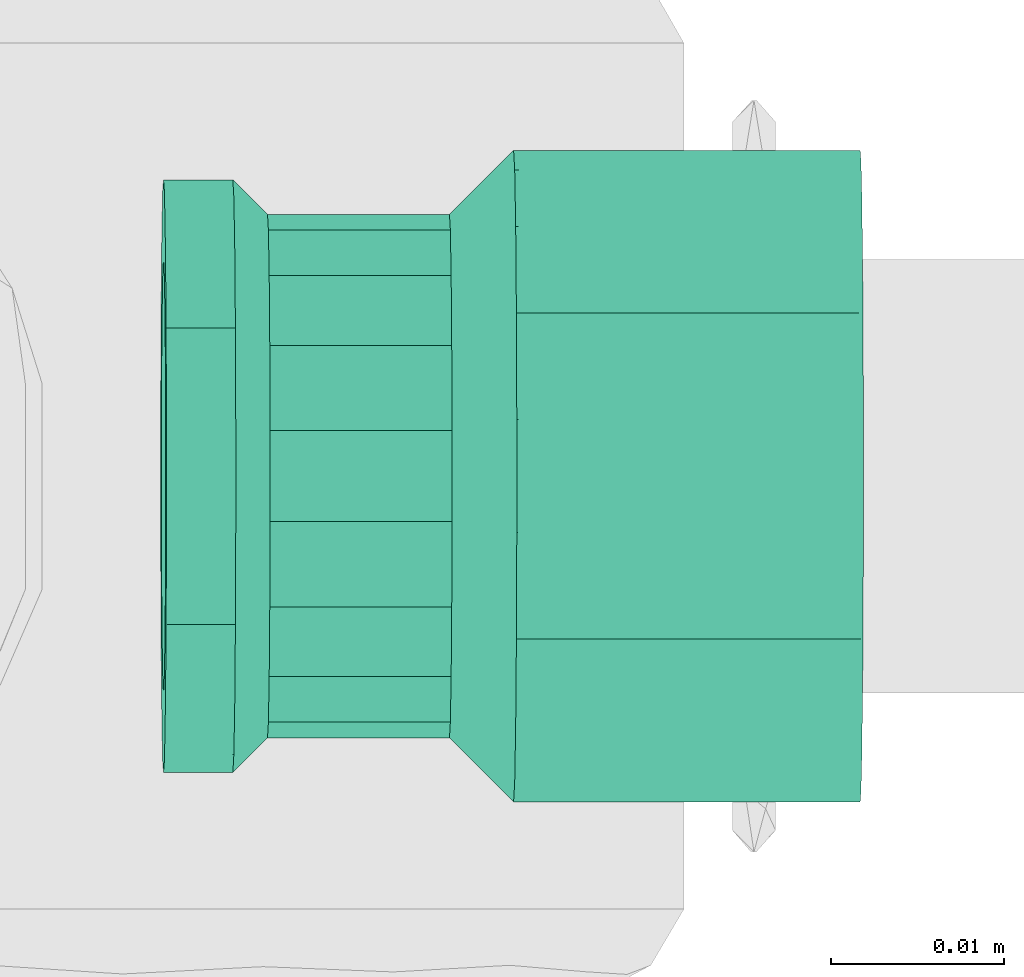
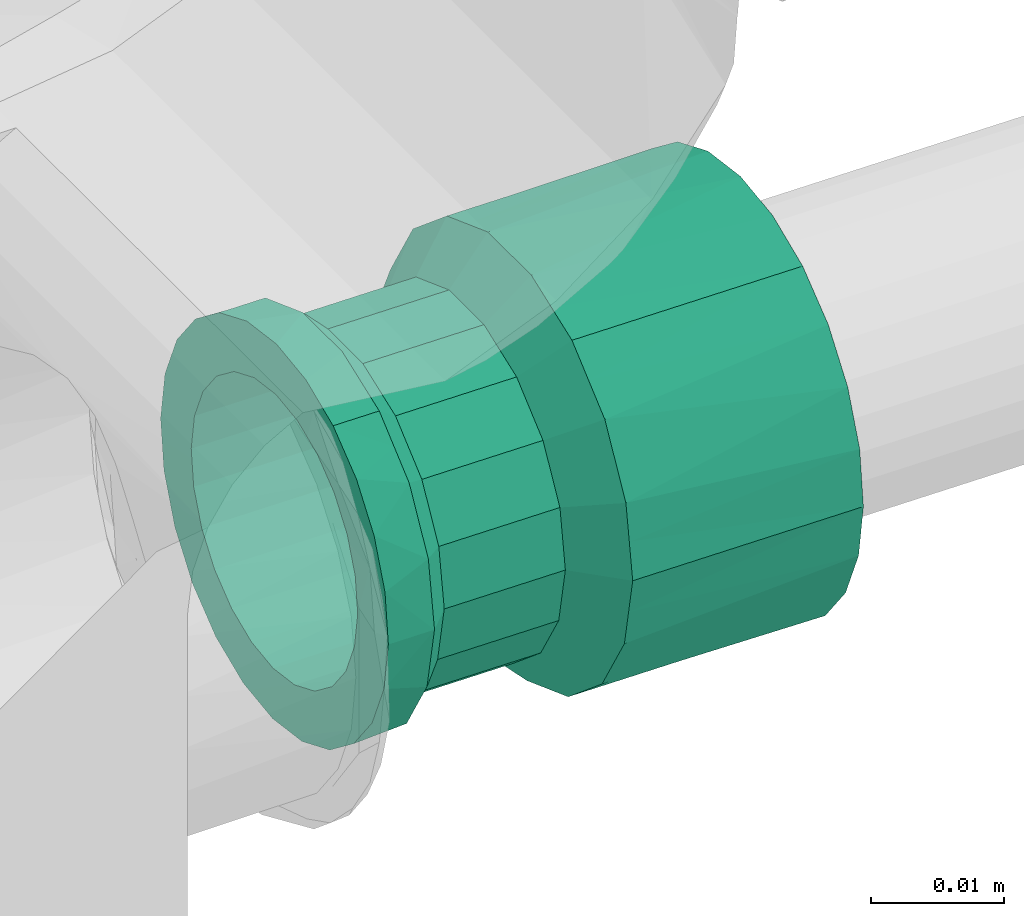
# One storey, part 315 of 589: 2 flow fittings.
"""IFC2X3 building model written with IfcOpenShell, lengths in millimetres."""

from ifc_helpers import new_model, entity, si_unit, converted_unit, derived_unit, direction, frame, origin, place, context, subcontext, project, spatial, faceted_brep, source, transform, mapped, material, type_object, type_shapes, element, save


model = new_model("IFC2X3")

# Units and contexts
model_context = context("Model", 3, precision=0.01, world=origin(), true_north=direction((6.123031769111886e-17, 1.0)))
body_context = subcontext(model_context, "Body", "Model", "MODEL_VIEW")
ifc_project = project(units=[si_unit("LENGTHUNIT", "METRE", prefix="MILLI"), si_unit("AREAUNIT", "SQUARE_METRE"), si_unit("VOLUMEUNIT", "CUBIC_METRE"), converted_unit("PLANEANGLEUNIT", "DEGREE", entity("IfcRatioMeasure", 0.017453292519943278), si_unit("PLANEANGLEUNIT", "RADIAN"), dimensions=[0, 0, 0, 0, 0, 0, 0]), si_unit("MASSUNIT", "GRAM", prefix="KILO"), derived_unit("MASSDENSITYUNIT", [(si_unit("MASSUNIT", "GRAM", prefix="KILO"), 1), (si_unit("LENGTHUNIT", "METRE"), -3)]), derived_unit("IONCONCENTRATIONUNIT", [(si_unit("MASSUNIT", "GRAM", prefix="KILO"), 1), (si_unit("LENGTHUNIT", "METRE"), -3)]), derived_unit("MOMENTOFINERTIAUNIT", [(si_unit("LENGTHUNIT", "METRE"), 4)]), si_unit("TIMEUNIT", "SECOND"), si_unit("FREQUENCYUNIT", "HERTZ"), si_unit("THERMODYNAMICTEMPERATUREUNIT", "DEGREE_CELSIUS"), derived_unit("THERMALTRANSMITTANCEUNIT", [(si_unit("MASSUNIT", "GRAM", prefix="KILO"), 1), (si_unit("THERMODYNAMICTEMPERATUREUNIT", "KELVIN"), -1), (si_unit("TIMEUNIT", "SECOND"), -3)]), derived_unit("THERMALCONDUCTANCEUNIT", [(si_unit("MASSUNIT", "GRAM", prefix="KILO"), 1), (si_unit("THERMODYNAMICTEMPERATUREUNIT", "KELVIN"), -1), (si_unit("TIMEUNIT", "SECOND"), -3), (si_unit("LENGTHUNIT", "METRE"), 1)]), derived_unit("VOLUMETRICFLOWRATEUNIT", [(si_unit("LENGTHUNIT", "METRE"), 3), (si_unit("TIMEUNIT", "SECOND"), -1)]), derived_unit("MASSFLOWRATEUNIT", [(si_unit("MASSUNIT", "GRAM", prefix="KILO"), 1), (si_unit("TIMEUNIT", "SECOND"), -1)]), derived_unit("ROTATIONALFREQUENCYUNIT", [(si_unit("TIMEUNIT", "SECOND"), -1)]), si_unit("ELECTRICCURRENTUNIT", "AMPERE"), si_unit("ELECTRICVOLTAGEUNIT", "VOLT"), si_unit("POWERUNIT", "WATT"), si_unit("FORCEUNIT", "NEWTON", prefix="KILO"), si_unit("ILLUMINANCEUNIT", "LUX"), si_unit("LUMINOUSFLUXUNIT", "LUMEN"), si_unit("LUMINOUSINTENSITYUNIT", "CANDELA"), derived_unit("USERDEFINED", [(si_unit("MASSUNIT", "GRAM", prefix="KILO"), -1), (si_unit("LENGTHUNIT", "METRE"), -2), (si_unit("TIMEUNIT", "SECOND"), 3), (si_unit("LUMINOUSFLUXUNIT", "LUMEN"), 1)]), derived_unit("USERDEFINED", [(si_unit("MASSUNIT", "GRAM", prefix="KILO"), 1), (si_unit("TIMEUNIT", "SECOND"), -3), (si_unit("LENGTHUNIT", "METRE"), 3), (si_unit("ELECTRICCURRENTUNIT", "AMPERE"), -2)]), derived_unit("SOUNDPOWERUNIT", [(si_unit("MASSUNIT", "GRAM", prefix="KILO"), 1), (si_unit("TIMEUNIT", "SECOND"), -3), (si_unit("LENGTHUNIT", "METRE"), 2)]), derived_unit("SOUNDPRESSUREUNIT", [(si_unit("MASSUNIT", "GRAM", prefix="KILO"), 1), (si_unit("LENGTHUNIT", "METRE"), -1), (si_unit("TIMEUNIT", "SECOND"), -2)]), derived_unit("LINEARVELOCITYUNIT", [(si_unit("LENGTHUNIT", "METRE"), 1), (si_unit("TIMEUNIT", "SECOND"), -1)]), si_unit("PRESSUREUNIT", "PASCAL"), derived_unit("USERDEFINED", [(si_unit("MASSUNIT", "GRAM", prefix="KILO"), 1), (si_unit("LENGTHUNIT", "METRE"), -2), (si_unit("TIMEUNIT", "SECOND"), -2)]), derived_unit("LINEARFORCEUNIT", [(si_unit("MASSUNIT", "GRAM", prefix="KILO"), 1), (si_unit("TIMEUNIT", "SECOND"), -2)]), derived_unit("PLANARFORCEUNIT", [(si_unit("MASSUNIT", "GRAM", prefix="KILO"), 1), (si_unit("LENGTHUNIT", "METRE"), -1), (si_unit("TIMEUNIT", "SECOND"), -2)]), derived_unit("SPECIFICHEATCAPACITYUNIT", [(si_unit("THERMODYNAMICTEMPERATUREUNIT", "KELVIN"), -1), (si_unit("LENGTHUNIT", "METRE"), 2), (si_unit("TIMEUNIT", "SECOND"), -2)]), derived_unit("HEATINGVALUEUNIT", [(si_unit("LENGTHUNIT", "METRE"), 2), (si_unit("TIMEUNIT", "SECOND"), -2)]), derived_unit("VAPORPERMEABILITYUNIT", [(si_unit("LENGTHUNIT", "METRE"), -1), (si_unit("TIMEUNIT", "SECOND"), 1)]), derived_unit("DYNAMICVISCOSITYUNIT", [(si_unit("MASSUNIT", "GRAM", prefix="KILO"), 1), (si_unit("TIMEUNIT", "SECOND"), -1), (si_unit("LENGTHUNIT", "METRE"), -1)]), derived_unit("THERMALEXPANSIONCOEFFICIENTUNIT", [(si_unit("THERMODYNAMICTEMPERATUREUNIT", "KELVIN"), -1)]), derived_unit("MODULUSOFELASTICITYUNIT", [(si_unit("MASSUNIT", "GRAM", prefix="KILO"), 1), (si_unit("LENGTHUNIT", "METRE"), -1), (si_unit("TIMEUNIT", "SECOND"), -2)]), derived_unit("ISOTHERMALMOISTURECAPACITYUNIT", [(si_unit("LENGTHUNIT", "METRE"), 3), (si_unit("MASSUNIT", "GRAM", prefix="KILO"), -1)]), derived_unit("MOISTUREDIFFUSIVITYUNIT", [(si_unit("TIMEUNIT", "SECOND"), -1), (si_unit("LENGTHUNIT", "METRE"), 2)])], contexts=[model_context])

# Site, building, storey
site_placement = place(None, origin())
site = spatial("IfcSite", under=ifc_project, at=site_placement, Name="Default", CompositionType="ELEMENT")
building_placement = place(site_placement, origin())
building = spatial("IfcBuilding", under=site, at=building_placement, CompositionType="ELEMENT")
storey_placement = place(building_placement, frame((0.0, 0.0, 100.0)))
storey = spatial("IfcBuildingStorey", under=building, at=storey_placement, Name="TÉRREO", CompositionType="ELEMENT", Elevation=100.0)

# Flow fittings
ifc_material = material(Name="PVC Azul")
pipe_fitting_type = type_object("IfcPipeFittingType", Name="Luva Soldavel com Bucha de Latao - Fortlev - AleBim:Standard", PredefinedType="NOTDEFINED", material=ifc_material)
shared_shape = source(origin(), body_context, "Body", "Brep", [
    faceted_brep([(0.0, -9.400000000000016, -16.28127759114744), (0.0, -13.2936074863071, -13.293607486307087), (0.0, -6.249999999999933, -10.825317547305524), (0.0, -3.235238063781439, -12.074072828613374), (0.0, -4.865798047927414, -18.15940553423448), (0.0, -8.838834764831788, -8.838834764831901), (0.0, -16.281277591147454, -9.399999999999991), (0.0, -10.82531754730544, -6.250000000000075), (0.0, -12.074072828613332, -3.2352380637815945), (0.0, -18.159405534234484, -4.865798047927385), (0.0, -12.5, 0.0), (0.0, -18.8, 0.0), (0.0, -12.074072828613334, 3.2352380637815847), (0.0, -18.159405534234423, 4.8657980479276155), (0.0, -10.825317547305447, 6.250000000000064), (0.0, -16.281277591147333, 9.400000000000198), (0.0, -8.838834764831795, 8.838834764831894), (0.0, -13.293607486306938, 13.29360748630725), (0.0, -6.249999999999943, 10.825317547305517), (0.0, -9.399999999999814, 16.281277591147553), (0.0, -3.23523806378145, 12.07407282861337), (0.0, -4.865798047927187, 18.159405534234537), (0.0, 0.0, 12.5), (0.0, 0.0, 18.8), (0.0, 3.2352380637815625, 12.074072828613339), (0.0, 4.865798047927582, 18.159405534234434), (0.0, 6.2500000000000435, 10.825317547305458), (0.0, 9.400000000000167, 16.28127759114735), (0.0, 8.838834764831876, 8.838834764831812), (0.0, 13.29360748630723, 13.293607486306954), (0.0, 10.825317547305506, 6.249999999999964), (0.0, 16.281277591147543, 9.399999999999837), (0.0, 18.159405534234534, 4.865798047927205), (0.0, 12.074072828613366, 3.2352380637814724), (0.0, 18.8, 0.0), (0.0, 12.5, 0.0), (0.0, 18.15940553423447, -4.865798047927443), (0.0, 12.074072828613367, -3.2352380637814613), (0.0, 16.281277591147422, -9.400000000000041), (0.0, 10.825317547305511, -6.249999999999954), (0.0, 13.293607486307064, -13.293607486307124), (0.0, 8.838834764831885, -8.838834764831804), (0.0, 9.399999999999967, -16.281277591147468), (0.0, 6.250000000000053, -10.825317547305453), (0.0, 4.86579804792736, -18.159405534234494), (0.0, 3.2352380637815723, -12.074072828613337), (0.0, 0.0, -18.8), (0.0, 0.0, -12.5), (20.0, 17.66604204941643, 6.4304710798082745), (20.0, 18.233021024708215, 3.2152355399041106), (20.0, 11.899800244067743, 14.183636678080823), (20.0, 14.400961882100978, 12.08520983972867), (20.0, 16.033501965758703, 9.257840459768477), (20.0, 6.330580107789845, 17.39840655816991), (20.0, 3.2625216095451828, 18.514749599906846), (20.0, 18.8, 0.0), (20.0, 9.398638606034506, 16.282063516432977), (20.0, -17.667654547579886, 6.4260394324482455), (20.0, -9.402722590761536, 16.279705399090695), (20.0, -6.334944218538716, 17.39681801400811), (20.0, -3.267165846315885, 18.513930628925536), (20.0, -14.403992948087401, 12.081597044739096), (20.0, -11.903357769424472, 14.180651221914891), (20.0, -18.8, 0.0), (20.0, -16.03582374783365, 9.253818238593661), (20.0, -0.0023221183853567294, 18.514340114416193), (20.0, -17.66765454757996, -6.426039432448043), (20.0, -11.903357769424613, -14.180651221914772), (20.0, -14.403992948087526, -12.081597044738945), (20.0, -16.035823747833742, -9.253818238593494), (20.0, -6.334944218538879, -17.39681801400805), (20.0, -3.2671658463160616, -18.513930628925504), (20.0, 18.233021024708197, -3.2152355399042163), (20.0, -9.402722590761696, -16.2797053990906), (20.0, 6.330580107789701, -17.398406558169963), (20.0, 3.2625216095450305, -18.514749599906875), (20.0, 9.398638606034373, -16.282063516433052), (20.0, 11.899800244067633, -14.183636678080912), (20.0, 17.66604204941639, -6.43047107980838), (20.0, 16.033501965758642, -9.257840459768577), (20.0, 14.400961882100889, -12.085209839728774), (20.0, -0.0023221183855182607, -18.51434011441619), (23.69999999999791, 14.19050976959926, 5.16134018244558), (23.699999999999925, 15.09999999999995, 0.0), (23.699999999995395, 5.088173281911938, 13.97297617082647), (23.699999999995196, 2.6241598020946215, 14.870231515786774), (23.699999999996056, 9.560675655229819, 11.38977837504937), (23.699999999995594, 7.552186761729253, 13.075720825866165), (23.699999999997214, 12.879837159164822, 7.432588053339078), (23.699999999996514, 11.569164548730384, 9.703835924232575), (23.699999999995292, 0.0018651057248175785, 14.870560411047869), (23.69999999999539, -2.620429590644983, 14.870889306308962), (23.699999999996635, -9.557818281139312, 11.392176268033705), (23.699999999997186, -11.566730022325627, 9.706737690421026), (23.699999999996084, -7.548906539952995, 13.077614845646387), (23.699999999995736, -5.084668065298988, 13.974252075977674), (23.699999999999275, -14.644607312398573, 2.582449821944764), (23.699999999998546, -14.189214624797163, 5.164899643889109), (23.700000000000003, -15.099999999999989, 0.0), (23.699999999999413, -14.732236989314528, 2.085517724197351), (23.699999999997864, -12.877972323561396, 7.4358186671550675), (23.699999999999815, -14.644607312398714, -2.582449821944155), (23.699999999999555, -14.18921462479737, -5.164899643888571), (23.699999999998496, -5.084668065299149, -13.97425207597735), (23.699999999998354, -2.620429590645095, -14.87088930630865), (23.69999999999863, -7.548906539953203, -13.077614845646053), (23.69999999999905, -11.566730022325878, -9.706737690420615), (23.69999999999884, -9.557818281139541, -11.392176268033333), (23.6999999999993, 14.190509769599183, -5.1613401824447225), (23.699999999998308, 0.0018651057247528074, -14.870560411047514), (23.699999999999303, -12.877972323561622, -7.435818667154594), (23.699999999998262, 2.6241598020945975, -14.870231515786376), (23.699999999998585, 9.56067565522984, -11.389778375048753), (23.699999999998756, 11.569164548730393, -9.703835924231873), (23.699999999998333, 5.088173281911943, -13.972976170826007), (23.69999999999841, 7.552186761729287, -13.075720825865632), (23.69999999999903, 12.879837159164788, -7.432588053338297), (34.20000000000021, -14.189214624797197, -5.164899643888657), (34.20000000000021, -14.73223698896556, -2.085517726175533), (34.20000000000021, -15.099999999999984, 0.0), (34.20000000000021, -9.55781828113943, -11.392176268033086), (34.20000000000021, -11.566730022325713, -9.706737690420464), (34.20000000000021, -7.548906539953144, -13.077614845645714), (34.20000000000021, -12.877972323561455, -7.43581866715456), (34.20000000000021, -2.620429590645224, -14.870889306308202), (34.20000000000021, -5.084668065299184, -13.974252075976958), (34.20000000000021, 2.6241598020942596, -14.870231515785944), (34.20000000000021, 0.0018651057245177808, -14.870560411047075), (34.20000000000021, 5.0881732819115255, -13.97297617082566), (34.20000000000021, 7.552186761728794, -13.075720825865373), (34.20000000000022, 11.56916454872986, -9.70383592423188), (34.200000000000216, 9.560675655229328, -11.389778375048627), (34.20000000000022, 12.879837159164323, -7.432588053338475), (34.20000000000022, 14.19050976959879, -5.161340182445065), (34.20000000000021, 15.100000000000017, 0.0), (34.199999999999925, 14.190509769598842, 5.161340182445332), (34.19999999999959, 7.552186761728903, 13.0757208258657), (34.199999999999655, 9.56067565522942, 11.389778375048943), (34.19999999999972, 11.569164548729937, 9.703835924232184), (34.199999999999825, 12.879837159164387, 7.432588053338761), (34.19999999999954, 2.624159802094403, 14.87023151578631), (34.19999999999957, 5.08817328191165, 13.972976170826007), (34.19999999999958, -2.6204295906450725, 14.870889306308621), (34.19999999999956, 0.0018651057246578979, 14.870560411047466), (34.199999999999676, -7.548906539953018, 13.077614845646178), (34.199999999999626, -5.084668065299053, 13.974252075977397), (34.20000000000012, -14.644607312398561, 2.582449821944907), (34.20000000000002, -14.18921462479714, 5.164899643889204), (34.199999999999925, -12.877972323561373, 7.435818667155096), (34.19999999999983, -11.566730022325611, 9.706737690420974), (34.199999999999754, -9.557818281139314, 11.392176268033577), (36.20000000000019, -17.099999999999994, 0.0), (36.20000000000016, -16.698266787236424, 2.2781566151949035), (36.199999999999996, -16.584290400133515, 2.9244961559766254), (36.200000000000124, -16.068580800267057, 5.848992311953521), (36.20000000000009, -14.583664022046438, 8.420695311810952), (36.20000000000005, -13.098747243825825, 10.992398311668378), (36.200000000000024, -10.823754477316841, 12.90107378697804), (36.2, -8.548761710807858, 14.809749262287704), (36.19999999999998, -5.758134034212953, 15.825146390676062), (36.19999999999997, -2.9675063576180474, 16.840543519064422), (36.19999999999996, 0.0021121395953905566, 16.84017106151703), (36.19999999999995, 2.9717306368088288, 16.839798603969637), (36.199999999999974, 8.55247639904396, 14.807604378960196), (36.19999999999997, 5.762103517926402, 15.823701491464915), (36.20000000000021, 17.100000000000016, 0.0), (36.2000000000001, 16.070047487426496, 5.844961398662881), (36.200000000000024, 13.101504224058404, 10.989112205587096), (36.20000000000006, 14.585775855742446, 8.417036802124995), (36.2, 10.826990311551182, 12.898358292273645), (36.20000000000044, 16.07004748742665, -5.844961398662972), (36.200000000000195, 0.0021121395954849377, -16.84017106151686), (36.20000000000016, -2.9675063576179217, -16.84054351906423), (36.20000000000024, 2.9717306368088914, -16.839798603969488), (36.200000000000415, 14.58577585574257, -8.417036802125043), (36.20000000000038, 13.10150422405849, -10.989112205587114), (36.20000000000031, 8.552476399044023, -14.807604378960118), (36.20000000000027, 5.7621035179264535, -15.823701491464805), (36.20000000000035, 10.826990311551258, -12.898358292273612), (36.20000000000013, -5.758134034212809, -15.825146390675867), (36.2000000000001, -8.548761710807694, -14.809749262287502), (36.200000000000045, -16.068580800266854, -5.848992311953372), (36.200000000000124, -16.58429040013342, -2.924496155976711), (36.20000000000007, -13.098747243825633, -10.992398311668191), (36.20000000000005, -14.583664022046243, -8.420695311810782), (36.20000000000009, -10.823754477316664, -12.901073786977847), (40.200000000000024, 8.550000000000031, -14.809034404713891), (40.200000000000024, 12.091525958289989, -12.091525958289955), (40.200000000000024, 6.2500000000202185, -10.825317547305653), (40.200000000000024, 3.2352380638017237, -12.074072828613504), (40.200000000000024, 4.425805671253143, -16.51733162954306), (40.200000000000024, 8.838834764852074, -8.838834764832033), (40.200000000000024, 14.809034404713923, -8.549999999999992), (40.200000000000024, 10.825317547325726, -6.250000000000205), (40.200000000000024, 12.074072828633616, -3.235238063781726), (40.200000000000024, 16.517331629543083, -4.4258056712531), (40.200000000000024, 12.500000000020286, 0.0), (40.200000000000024, 17.100000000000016, 0.0), (40.200000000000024, 12.074072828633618, 3.2352380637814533), (40.200000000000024, 16.51733162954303, 4.42580567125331), (40.200000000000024, 10.825317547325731, 6.2499999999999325), (40.200000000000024, 14.809034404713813, 8.550000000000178), (40.200000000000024, 8.83883476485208, 8.838834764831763), (40.200000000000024, 12.091525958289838, 12.091525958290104), (40.200000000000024, 6.250000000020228, 10.825317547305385), (40.200000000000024, 8.549999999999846, 14.809034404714), (40.200000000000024, 3.235238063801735, 12.074072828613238), (40.200000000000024, 4.425805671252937, 16.51733162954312), (40.200000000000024, 0.0, 12.49999999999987), (40.200000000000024, 0.0, 17.1), (40.200000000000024, -3.235238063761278, 12.07407282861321), (40.200000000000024, -4.425805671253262, 16.51733162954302), (40.200000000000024, -6.249999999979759, 10.825317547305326), (40.200000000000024, -8.550000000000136, 14.809034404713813), (40.200000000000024, -8.838834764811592, 8.838834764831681), (40.200000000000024, -12.091525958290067, 12.091525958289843), (40.200000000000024, -10.825317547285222, 6.249999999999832), (40.200000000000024, -14.809034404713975, 8.549999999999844), (40.200000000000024, -16.517331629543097, 4.425805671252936), (40.200000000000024, -12.07407282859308, 3.2352380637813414), (40.200000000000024, -17.099999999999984, 0.0), (40.200000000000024, -12.499999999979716, 0.0), (40.200000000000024, -16.517331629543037, -4.425805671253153), (40.200000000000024, -12.074072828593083, -3.2352380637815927), (40.200000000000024, -14.809034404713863, -8.550000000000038), (40.200000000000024, -10.825317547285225, -6.250000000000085), (40.200000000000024, -12.09152595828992, -12.09152595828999), (40.200000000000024, -8.838834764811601, -8.838834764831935), (40.200000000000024, -8.549999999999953, -14.80903440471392), (40.200000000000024, -6.249999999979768, -10.825317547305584), (40.200000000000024, -4.425805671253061, -16.517331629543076), (40.200000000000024, -3.2352380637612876, -12.074072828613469), (40.200000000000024, 0.0, -17.1), (40.200000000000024, 0.0, -12.500000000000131), (24.0, 3.23523806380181, -12.074072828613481), (24.0, 6.250000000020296, -10.825317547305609), (24.0, 8.838834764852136, -8.83883476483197), (24.0, 10.825317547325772, -6.250000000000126), (24.0, 12.07407282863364, -3.2352380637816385), (24.0, 12.500000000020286, 0.0), (24.0, 12.074072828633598, 3.235238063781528), (24.0, 10.825317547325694, 6.249999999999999), (24.0, 8.838834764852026, 8.838834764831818), (24.0, 6.250000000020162, 10.825317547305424), (24.0, 3.2352380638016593, 12.074072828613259), (24.0, 0.0, 12.49999999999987), (24.0, -3.235238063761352, 12.07407282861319), (24.0, -6.249999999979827, 10.82531754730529), (24.0, -8.83883476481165, 8.83883476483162), (24.0, -10.82531754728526, 6.24999999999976), (24.0, -12.074072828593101, 3.235238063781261), (24.0, -12.499999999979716, 0.0), (24.0, -12.07407282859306, -3.235238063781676), (24.0, -10.825317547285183, -6.250000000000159), (24.0, -8.838834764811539, -8.838834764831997), (24.0, -6.2499999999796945, -10.825317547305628), (24.0, -3.2352380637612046, -12.074072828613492), (24.0, 0.0, -12.500000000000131), (16.200000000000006, -12.074072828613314, 3.2352380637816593), (16.200000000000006, -12.5, 0.0), (16.200000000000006, -10.825317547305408, 6.250000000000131), (16.200000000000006, -8.838834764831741, 8.83883476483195), (16.200000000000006, -6.2499999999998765, 10.825317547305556), (16.200000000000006, -3.2352380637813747, 12.07407282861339), (16.200000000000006, 0.0, 12.5), (16.200000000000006, 6.250000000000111, 10.825317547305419), (16.200000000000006, 3.235238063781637, 12.074072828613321), (16.200000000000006, 8.838834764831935, 8.838834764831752), (16.200000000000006, 10.825317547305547, 6.249999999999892), (16.200000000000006, 12.074072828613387, 3.235238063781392), (16.200000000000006, 12.5, 0.0), (16.200000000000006, 12.074072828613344, -3.2352380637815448), (16.200000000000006, 10.825317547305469, -6.2500000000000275), (16.200000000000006, 8.838834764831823, -8.838834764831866), (16.200000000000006, 6.24999999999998, -10.825317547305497), (16.200000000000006, 3.2352380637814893, -12.07407282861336), (16.200000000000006, 0.0, -12.5), (16.200000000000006, -6.250000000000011, -10.82531754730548), (16.200000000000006, -3.2352380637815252, -12.07407282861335), (16.200000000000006, -8.83883476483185, -8.838834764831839), (16.200000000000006, -10.825317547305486, -6.249999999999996), (16.200000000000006, -12.074072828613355, -3.2352380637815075)], [[[0, 1, 2]], [[0, 2, 3]], [[3, 4, 0]], [[2, 1, 5]], [[6, 5, 1]], [[7, 5, 6]], [[8, 7, 6]], [[8, 6, 9]], [[8, 9, 10]], [[10, 9, 11]], [[12, 10, 11]], [[12, 11, 13]], [[14, 12, 13]], [[14, 13, 15]], [[16, 14, 15]], [[15, 17, 16]], [[17, 18, 16]], [[18, 17, 19]], [[18, 19, 20]], [[21, 20, 19]], [[20, 21, 22]], [[22, 21, 23]], [[23, 24, 22]], [[24, 23, 25]], [[24, 25, 26]], [[27, 26, 25]], [[27, 28, 26]], [[27, 29, 28]], [[30, 28, 29]], [[31, 30, 29]], [[32, 30, 31]], [[33, 30, 32]], [[33, 32, 34]], [[34, 35, 33]], [[36, 35, 34]], [[36, 37, 35]], [[37, 36, 38]], [[39, 37, 38]], [[39, 38, 40]], [[39, 40, 41]], [[40, 42, 41]], [[41, 42, 43]], [[43, 42, 44]], [[44, 45, 43]], [[46, 45, 44]], [[4, 47, 46]], [[45, 46, 47]], [[4, 3, 47]], [[32, 48, 49]], [[50, 51, 29]], [[52, 48, 31, 51]], [[53, 25, 54]], [[48, 32, 31]], [[34, 49, 55]], [[25, 53, 27]], [[27, 56, 50]], [[29, 51, 31]], [[13, 57, 15]], [[19, 58, 59]], [[53, 56, 27]], [[21, 19, 59]], [[54, 25, 23]], [[29, 27, 50]], [[59, 60, 21]], [[61, 62, 17]], [[63, 57, 13]], [[32, 49, 34]], [[64, 61, 15, 57]], [[11, 63, 13]], [[17, 62, 19]], [[65, 54, 23, 60]], [[61, 17, 15]], [[19, 62, 58]], [[21, 60, 23]], [[66, 63, 9]], [[67, 68, 1]], [[69, 66, 6, 68]], [[70, 4, 71]], [[66, 9, 6]], [[63, 11, 9]], [[1, 68, 6]], [[34, 55, 72]], [[70, 73, 0]], [[71, 4, 46]], [[74, 75, 44]], [[42, 76, 74]], [[42, 77, 76]], [[36, 78, 38]], [[38, 78, 79, 80]], [[36, 34, 72]], [[77, 40, 80]], [[72, 78, 36]], [[0, 73, 67]], [[81, 71, 46, 75]], [[1, 0, 67]], [[4, 70, 0]], [[80, 40, 38]], [[40, 77, 42]], [[44, 75, 46]], [[44, 42, 74]], [[82, 83, 49]], [[84, 53, 85]], [[86, 50, 87]], [[88, 52, 89]], [[53, 54, 85]], [[50, 56, 87]], [[49, 48, 82]], [[52, 51, 89]], [[87, 56, 84]], [[83, 55, 49]], [[88, 48, 52]], [[51, 50, 86]], [[85, 54, 90]], [[82, 48, 88]], [[56, 53, 84]], [[89, 51, 86]], [[65, 60, 91]], [[92, 62, 93]], [[59, 58, 94]], [[90, 65, 91]], [[95, 59, 94]], [[96, 97, 57]], [[63, 98, 99, 96]], [[64, 57, 97]], [[100, 64, 97]], [[62, 61, 93]], [[93, 61, 100]], [[59, 95, 60]], [[92, 58, 62]], [[61, 64, 100]], [[63, 96, 57]], [[94, 58, 92]], [[54, 65, 90]], [[91, 60, 95]], [[66, 101, 63]], [[98, 63, 101]], [[66, 102, 101]], [[103, 71, 104]], [[105, 73, 70]], [[106, 68, 67]], [[107, 73, 105]], [[102, 66, 69]], [[108, 78, 72]], [[70, 71, 103]], [[109, 104, 81]], [[69, 68, 110]], [[81, 75, 109]], [[110, 102, 69]], [[67, 73, 107]], [[107, 106, 67]], [[75, 111, 109]], [[112, 80, 113]], [[111, 75, 74]], [[110, 68, 106]], [[81, 104, 71]], [[114, 76, 115]], [[103, 105, 70]], [[113, 80, 79]], [[116, 78, 108]], [[115, 76, 77]], [[116, 113, 79]], [[79, 78, 116]], [[55, 83, 72]], [[77, 80, 112]], [[108, 72, 83]], [[112, 115, 77]], [[74, 76, 114]], [[114, 111, 74]], [[117, 118, 119, 98, 101, 102]], [[120, 121, 106, 107, 105, 122]], [[121, 123, 117, 102, 110, 106]], [[124, 125, 122, 105, 103, 104]], [[126, 127, 124, 104, 109, 111]], [[128, 126, 111, 114, 115, 129]], [[112, 113, 130, 131, 129, 115]], [[132, 130, 113, 116, 108, 133]], [[108, 83, 134, 133]], [[135, 134, 83, 82]], [[136, 137, 138, 89, 86, 87]], [[138, 139, 135, 82, 88, 89]], [[140, 141, 136, 87, 84, 85]], [[90, 91, 142, 143, 140, 85]], [[95, 94, 144, 145, 142, 91]], [[99, 98, 119, 146, 147, 97, 96]], [[148, 149, 93, 100, 97, 147]], [[92, 93, 149, 150, 144, 94]], [[147, 146, 119, 151, 152, 153, 154]], [[148, 147, 154, 155, 156, 149]], [[150, 149, 156, 157, 158, 144]], [[158, 159, 160, 142, 145, 144]], [[161, 162, 140, 143, 142, 160]], [[163, 136, 141, 140, 162, 164]], [[165, 134, 135, 166]], [[167, 168, 166, 135, 139, 138]], [[163, 169, 167, 138, 137, 136]], [[170, 133, 134, 165]], [[171, 172, 124, 127, 126, 173]], [[132, 133, 170, 174, 175, 130]], [[126, 128, 129, 176, 177, 173]], [[175, 178, 176, 129, 131, 130]], [[125, 124, 172, 179, 180, 122]], [[151, 119, 118, 117, 181, 182]], [[183, 184, 181, 117, 123, 121]], [[180, 185, 183, 121, 120, 122]], [[186, 187, 188]], [[186, 188, 189]], [[189, 190, 186]], [[188, 187, 191]], [[192, 191, 187]], [[193, 191, 192]], [[194, 193, 192]], [[194, 192, 195]], [[194, 195, 196]], [[196, 195, 197]], [[198, 196, 197]], [[198, 197, 199]], [[200, 198, 199]], [[200, 199, 201]], [[202, 200, 201]], [[201, 203, 202]], [[203, 204, 202]], [[204, 203, 205]], [[204, 205, 206]], [[207, 206, 205]], [[206, 207, 208]], [[208, 207, 209]], [[209, 210, 208]], [[210, 209, 211]], [[210, 211, 212]], [[213, 212, 211]], [[213, 214, 212]], [[213, 215, 214]], [[216, 214, 215]], [[217, 216, 215]], [[218, 216, 217]], [[219, 216, 218]], [[219, 218, 220]], [[220, 221, 219]], [[222, 221, 220]], [[222, 223, 221]], [[223, 222, 224]], [[225, 223, 224]], [[225, 224, 226]], [[225, 226, 227]], [[226, 228, 227]], [[227, 228, 229]], [[229, 228, 230]], [[230, 231, 229]], [[232, 231, 230]], [[190, 233, 232]], [[231, 232, 233]], [[190, 189, 233]], [[218, 154, 153]], [[157, 156, 215]], [[155, 154, 217, 156]], [[159, 211, 160]], [[154, 218, 217]], [[220, 153, 152, 151]], [[213, 158, 157]], [[215, 213, 157]], [[215, 156, 217]], [[205, 163, 164]], [[207, 205, 164]], [[159, 158, 213]], [[211, 159, 213]], [[160, 211, 209]], [[218, 153, 220]], [[164, 162, 207]], [[167, 169, 203]], [[165, 166, 199]], [[168, 167, 201, 166]], [[197, 165, 199]], [[203, 169, 205]], [[161, 160, 209, 162]], [[207, 162, 209]], [[167, 203, 201]], [[205, 169, 163]], [[199, 166, 201]], [[170, 165, 195]], [[178, 175, 187]], [[174, 170, 192, 175]], [[177, 190, 173]], [[170, 195, 192]], [[165, 197, 195]], [[190, 177, 186]], [[186, 176, 178]], [[187, 175, 192]], [[222, 220, 182]], [[228, 180, 179]], [[177, 176, 186]], [[230, 228, 179]], [[173, 190, 232]], [[187, 186, 178]], [[179, 172, 230]], [[183, 185, 226]], [[182, 181, 222]], [[184, 183, 224, 181]], [[222, 181, 224]], [[226, 185, 228]], [[171, 173, 232, 172]], [[230, 172, 232]], [[183, 226, 224]], [[228, 185, 180]], [[220, 151, 182]], [[234, 235, 236, 237, 238, 239, 240, 241, 242, 243, 244, 245, 246, 247, 248, 249, 250, 251, 252, 253, 254, 255, 256, 257]], [[250, 219, 221, 251]], [[12, 258, 259, 10]], [[249, 216, 219, 250]], [[14, 260, 258, 12]], [[214, 248, 247, 212]], [[261, 16, 18, 262]], [[249, 248, 214, 216]], [[261, 260, 14, 16]], [[212, 247, 246, 210]], [[262, 18, 20, 263]], [[210, 246, 245, 208]], [[20, 22, 264, 263]], [[243, 204, 206, 244]], [[26, 265, 266, 24]], [[242, 202, 204, 243]], [[28, 267, 265, 26]], [[200, 241, 240, 198]], [[268, 30, 33, 269]], [[242, 241, 200, 202]], [[268, 267, 28, 30]], [[198, 240, 239, 196]], [[269, 33, 35, 270]], [[206, 208, 245, 244]], [[24, 266, 264, 22]], [[238, 194, 196, 239]], [[37, 271, 270, 35]], [[237, 193, 194, 238]], [[39, 272, 271, 37]], [[191, 236, 235, 188]], [[273, 41, 43, 274]], [[237, 236, 191, 193]], [[273, 272, 39, 41]], [[188, 235, 234, 189]], [[274, 43, 45, 275]], [[189, 234, 257, 233]], [[45, 47, 276, 275]], [[255, 229, 231, 256]], [[2, 277, 278, 3]], [[254, 227, 229, 255]], [[5, 279, 277, 2]], [[225, 253, 252, 223]], [[280, 7, 8, 281]], [[254, 253, 225, 227]], [[280, 279, 5, 7]], [[223, 252, 251, 221]], [[281, 8, 10, 259]], [[231, 233, 257, 256]], [[3, 278, 276, 47]], [[278, 277, 279, 280, 281, 259, 258, 260, 261, 262, 263, 264, 266, 265, 267, 268, 269, 270, 271, 272, 273, 274, 275, 276]]]),
])
type_shapes(pipe_fitting_type, [shared_shape])
for number, where, z_axis, x_axis, name in (
    (1, (-2833.661249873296, -7887.861245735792, 2579.037588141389), (0.009999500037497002, 0.0, 0.9999500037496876), (-0.9999500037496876, 0.0, 0.009999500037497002), "Luva Soldavel com Bucha de Latao - Fortlev - AleBim:Standard"),
    (2, (-2833.661249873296, -7887.861245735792, 2579.037588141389), (0.009999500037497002, 0.0, 0.9999500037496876), (-0.9999500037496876, 0.0, 0.009999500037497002), "Luva Soldavel com Bucha de Latao - Fortlev - AleBim:Standard"),
):
    element("IfcFlowFitting", number, at=place(storey_placement, frame(where, z_axis=z_axis, x_axis=x_axis)), inside=storey, type_object=pipe_fitting_type, material=ifc_material, Name=name, ObjectType="Luva Soldavel com Bucha de Latao - Fortlev - AleBim:Standard", context=body_context, shape_type="MappedRepresentation", body=[
        mapped(shared_shape, transform((0.0, 0.0, 0.0), scale=1.0)),
    ])

save(model, "model.ifc")
